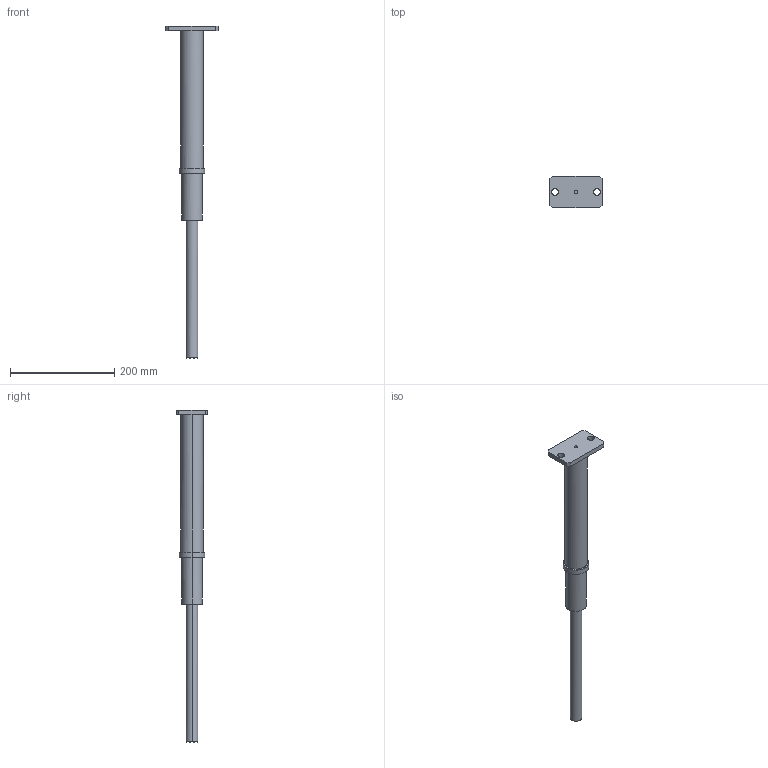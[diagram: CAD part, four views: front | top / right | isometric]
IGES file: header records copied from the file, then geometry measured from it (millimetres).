
Global section: file name: E:\UnigraphicsGraphicData\MISUMI_PRESS-PARTS\IGES\3d_papgu250-90_01675_r00.igs; native system: NX V5.0; preprocessor: UGS NX IGES V5.0; author: MISUMI; date: 20110105.162221; units: millimetre
Bounding box: 100 x 60 x 638 mm (x, y, z)
Surface area: 86555.3 mm2 (no closed solid volume)
Topology: 0 solids, 0 shells, 30 faces, 264 edges, 264 vertices
Faces by surface type: bspline 30
